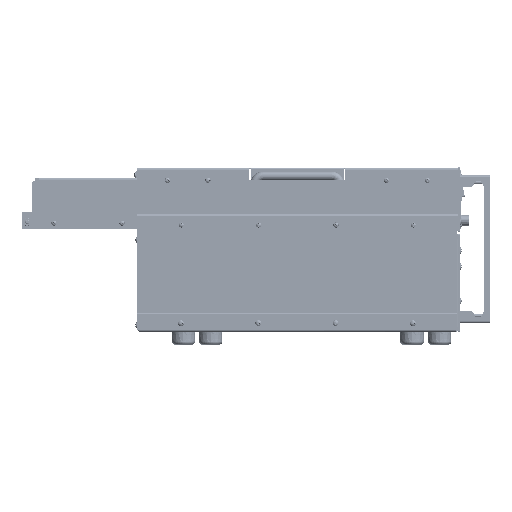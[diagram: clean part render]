
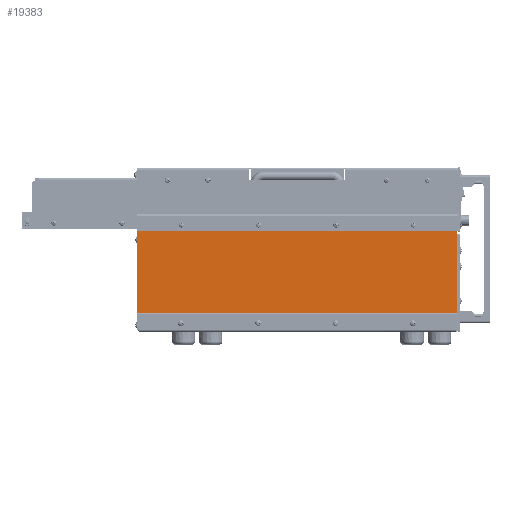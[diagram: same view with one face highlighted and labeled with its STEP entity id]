
A CAD part, left-side view. The second image highlights one B-rep face of the part: STEP entity #19383.
In plain terms, the highlighted planar face has unit normal (-1, 0, 0).
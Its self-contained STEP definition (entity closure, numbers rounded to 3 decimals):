
#19383=ADVANCED_FACE('',(#53082,#53083,#53084,#53085,#53086),#53087,.T.);
#53082=FACE_OUTER_BOUND('',#103247,.T.);
#53083=FACE_BOUND('',#103248,.T.);
#53084=FACE_BOUND('',#103249,.T.);
#53085=FACE_BOUND('',#103250,.T.);
#53086=FACE_BOUND('',#103251,.T.);
#53087=PLANE('',#103252);
#103247=EDGE_LOOP('',(#162846,#162847,#162848,#162849,#162850,#162851,#162852,#162853));
#103248=EDGE_LOOP('',(#162854,#162855));
#103249=EDGE_LOOP('',(#162856,#162857));
#103250=EDGE_LOOP('',(#162858,#162859));
#103251=EDGE_LOOP('',(#162860,#162861));
#103252=AXIS2_PLACEMENT_3D('',#162862,#162863,#162864);
#162846=ORIENTED_EDGE('',*,*,#283052,.F.);
#162847=ORIENTED_EDGE('',*,*,#283060,.T.);
#162848=ORIENTED_EDGE('',*,*,#283071,.F.);
#162849=ORIENTED_EDGE('',*,*,#283047,.F.);
#162850=ORIENTED_EDGE('',*,*,#283095,.T.);
#162851=ORIENTED_EDGE('',*,*,#283113,.F.);
#162852=ORIENTED_EDGE('',*,*,#283114,.F.);
#162853=ORIENTED_EDGE('',*,*,#283054,.F.);
#162854=ORIENTED_EDGE('',*,*,#283030,.T.);
#162855=ORIENTED_EDGE('',*,*,#283097,.T.);
#162856=ORIENTED_EDGE('',*,*,#283025,.T.);
#162857=ORIENTED_EDGE('',*,*,#283099,.T.);
#162858=ORIENTED_EDGE('',*,*,#283020,.T.);
#162859=ORIENTED_EDGE('',*,*,#283101,.T.);
#162860=ORIENTED_EDGE('',*,*,#283015,.T.);
#162861=ORIENTED_EDGE('',*,*,#283103,.T.);
#162862=CARTESIAN_POINT('',(546.234,604.229,24.048));
#162863=DIRECTION('',(-1.0,0.,0.));
#162864=DIRECTION('',(0.,0.,1.0));
#283015=EDGE_CURVE('',#335995,#335992,#335996,.T.);
#283020=EDGE_CURVE('',#336004,#336001,#336005,.T.);
#283025=EDGE_CURVE('',#336013,#336010,#336014,.T.);
#283030=EDGE_CURVE('',#336022,#336019,#336023,.T.);
#283047=EDGE_CURVE('',#336051,#336047,#336053,.T.);
#283052=EDGE_CURVE('',#336060,#336056,#336062,.T.);
#283054=EDGE_CURVE('',#336056,#336064,#336065,.T.);
#283060=EDGE_CURVE('',#336060,#336072,#336074,.T.);
#283071=EDGE_CURVE('',#336047,#336072,#336087,.T.);
#283095=EDGE_CURVE('',#336051,#336117,#336119,.T.);
#283097=EDGE_CURVE('',#336019,#336022,#336121,.T.);
#283099=EDGE_CURVE('',#336010,#336013,#336123,.T.);
#283101=EDGE_CURVE('',#336001,#336004,#336125,.T.);
#283103=EDGE_CURVE('',#335992,#335995,#336127,.T.);
#283113=EDGE_CURVE('',#336137,#336117,#336138,.T.);
#283114=EDGE_CURVE('',#336064,#336137,#336139,.T.);
#335992=VERTEX_POINT('',#413226);
#335995=VERTEX_POINT('',#413230);
#335996=CIRCLE('',#413231,2.5);
#336001=VERTEX_POINT('',#413237);
#336004=VERTEX_POINT('',#413241);
#336005=CIRCLE('',#413242,2.5);
#336010=VERTEX_POINT('',#413248);
#336013=VERTEX_POINT('',#413252);
#336014=CIRCLE('',#413253,2.5);
#336019=VERTEX_POINT('',#413259);
#336022=VERTEX_POINT('',#413263);
#336023=CIRCLE('',#413264,2.5);
#336047=VERTEX_POINT('',#413293);
#336051=VERTEX_POINT('',#413298);
#336053=CIRCLE('',#413301,1.457);
#336056=VERTEX_POINT('',#413304);
#336060=VERTEX_POINT('',#413309);
#336062=CIRCLE('',#413312,2.538);
#336064=VERTEX_POINT('',#413314);
#336065=CIRCLE('',#413315,2.538);
#336072=VERTEX_POINT('',#413324);
#336074=LINE('',#413327,#413328);
#336087=CIRCLE('',#413344,1.457);
#336117=VERTEX_POINT('',#413383);
#336119=LINE('',#413386,#413387);
#336121=CIRCLE('',#413389,2.5);
#336123=CIRCLE('',#413391,2.5);
#336125=CIRCLE('',#413393,2.5);
#336127=CIRCLE('',#413395,2.5);
#336137=VERTEX_POINT('',#413405);
#336138=LINE('',#413406,#413407);
#336139=LINE('',#413408,#413409);
#413226=CARTESIAN_POINT('',(546.234,974.979,79.473));
#413230=CARTESIAN_POINT('',(546.234,979.979,79.473));
#413231=AXIS2_PLACEMENT_3D('',#510067,#510068,#510069);
#413237=CARTESIAN_POINT('',(546.234,870.559,79.473));
#413241=CARTESIAN_POINT('',(546.234,875.559,79.473));
#413242=AXIS2_PLACEMENT_3D('',#510075,#510076,#510077);
#413248=CARTESIAN_POINT('',(546.234,766.149,79.473));
#413252=CARTESIAN_POINT('',(546.234,771.149,79.473));
#413253=AXIS2_PLACEMENT_3D('',#510083,#510084,#510085);
#413259=CARTESIAN_POINT('',(546.234,661.729,79.473));
#413263=CARTESIAN_POINT('',(546.234,666.729,79.473));
#413264=AXIS2_PLACEMENT_3D('',#510091,#510092,#510093);
#413293=CARTESIAN_POINT('',(546.234,1037.053,87.296));
#413298=CARTESIAN_POINT('',(546.234,1037.479,86.266));
#413301=AXIS2_PLACEMENT_3D('',#510119,#510120,#510121);
#413304=CARTESIAN_POINT('',(546.234,604.973,86.979));
#413309=CARTESIAN_POINT('',(546.234,606.767,87.723));
#413312=AXIS2_PLACEMENT_3D('',#510127,#510128,#510129);
#413314=CARTESIAN_POINT('',(546.234,604.229,85.185));
#413315=AXIS2_PLACEMENT_3D('',#510130,#510131,#510132);
#413324=CARTESIAN_POINT('',(546.234,1036.023,87.723));
#413327=CARTESIAN_POINT('',(546.234,604.229,87.723));
#413328=VECTOR('',#510139,1.0);
#413344=AXIS2_PLACEMENT_3D('',#510158,#510159,#510160);
#413383=CARTESIAN_POINT('',(546.234,1037.479,-39.627));
#413386=CARTESIAN_POINT('',(546.234,1037.479,87.723));
#413387=VECTOR('',#510195,1.0);
#413389=AXIS2_PLACEMENT_3D('',#510196,#510197,#510198);
#413391=AXIS2_PLACEMENT_3D('',#510199,#510200,#510201);
#413393=AXIS2_PLACEMENT_3D('',#510202,#510203,#510204);
#413395=AXIS2_PLACEMENT_3D('',#510205,#510206,#510207);
#413405=CARTESIAN_POINT('',(546.234,604.229,-39.627));
#413406=CARTESIAN_POINT('',(546.234,604.229,-39.627));
#413407=VECTOR('',#510220,1.0);
#413408=CARTESIAN_POINT('',(546.234,604.229,87.723));
#413409=VECTOR('',#510221,1.0);
#510067=CARTESIAN_POINT('',(546.234,977.479,79.473));
#510068=DIRECTION('',(1.0,0.,0.));
#510069=DIRECTION('',(0.,-1.0,0.));
#510075=CARTESIAN_POINT('',(546.234,873.059,79.473));
#510076=DIRECTION('',(1.0,0.,0.));
#510077=DIRECTION('',(0.,-1.0,0.));
#510083=CARTESIAN_POINT('',(546.234,768.649,79.473));
#510084=DIRECTION('',(1.0,0.,0.));
#510085=DIRECTION('',(0.,-1.0,0.));
#510091=CARTESIAN_POINT('',(546.234,664.229,79.473));
#510092=DIRECTION('',(1.0,0.,0.));
#510093=DIRECTION('',(0.,-1.0,0.));
#510119=CARTESIAN_POINT('',(546.234,1036.023,86.266));
#510120=DIRECTION('',(1.0,0.,0.));
#510121=DIRECTION('',(0.,0.707,0.707));
#510127=CARTESIAN_POINT('',(546.234,606.767,85.185));
#510128=DIRECTION('',(1.0,0.,0.));
#510129=DIRECTION('',(0.,-0.707,0.707));
#510130=CARTESIAN_POINT('',(546.234,606.767,85.185));
#510131=DIRECTION('',(1.0,0.,0.));
#510132=DIRECTION('',(0.,-0.707,0.707));
#510139=DIRECTION('',(0.0,1.0,0.0));
#510158=CARTESIAN_POINT('',(546.234,1036.023,86.266));
#510159=DIRECTION('',(1.0,0.,0.));
#510160=DIRECTION('',(0.,0.707,0.707));
#510195=DIRECTION('',(0.0,0.0,-1.0));
#510196=CARTESIAN_POINT('',(546.234,664.229,79.473));
#510197=DIRECTION('',(1.0,0.,0.));
#510198=DIRECTION('',(0.,-1.0,0.));
#510199=CARTESIAN_POINT('',(546.234,768.649,79.473));
#510200=DIRECTION('',(1.0,0.,0.));
#510201=DIRECTION('',(0.,-1.0,0.));
#510202=CARTESIAN_POINT('',(546.234,873.059,79.473));
#510203=DIRECTION('',(1.0,0.,0.));
#510204=DIRECTION('',(0.,-1.0,0.));
#510205=CARTESIAN_POINT('',(546.234,977.479,79.473));
#510206=DIRECTION('',(1.0,0.,0.));
#510207=DIRECTION('',(0.,-1.0,0.));
#510220=DIRECTION('',(0.0,1.0,0.0));
#510221=DIRECTION('',(0.0,0.0,-1.0));
